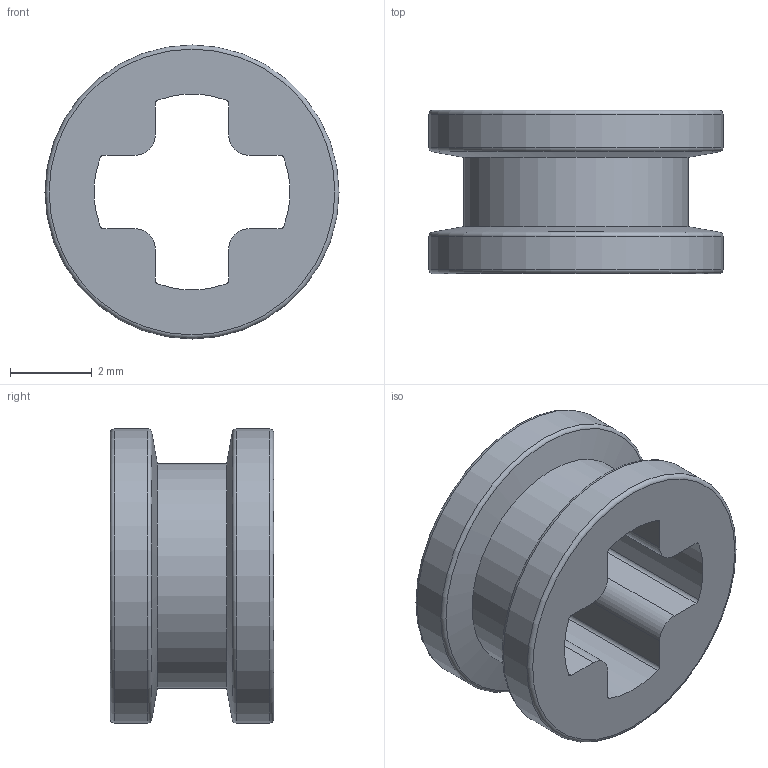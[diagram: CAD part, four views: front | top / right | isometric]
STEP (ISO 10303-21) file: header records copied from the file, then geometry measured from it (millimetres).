
FILE_DESCRIPTION(/* description */ ('Unknown'),/* implementation_level */ '2;1');
FILE_NAME(/* name */ 'ClGray_4211573_JCA',/* time_stamp */ '2025-07-21T23:51:06+02:00',/* author */ ('Unknown'),/* organization */ ('Unknown'),/* preprocessor_version */ 'ST-DEVELOPER v19.4',/* originating_system */ 'Solid Edge',/* authorisation */ 'Unknown');
FILE_SCHEMA (('AUTOMOTIVE_DESIGN {1 0 10303 214 3 1 1}'));
Length unit declared in the file: millimetre
Products named in the file (1): ClGray_4211573_JCA
Bounding box: 7.2 x 4 x 7.2 mm (x, y, z)
Volume: 75.9 mm3; surface area: 227.5 mm2
Topology: 1 solids, 1 shells, 35 faces, 93 edges, 60 vertices
Faces by surface type: cylinder 19, plane 10, torus 4, cone 2
Full cylindrical faces by diameter (mm): 5.5 x1, 7.2 x2
Entity records: 1072 total; most frequent: DIRECTION 196, CARTESIAN_POINT 176, ORIENTED_EDGE 164, EDGE_CURVE 82, AXIS2_PLACEMENT_3D 78, VERTEX_POINT 58, EDGE_LOOP 46, FACE_BOUND 46
